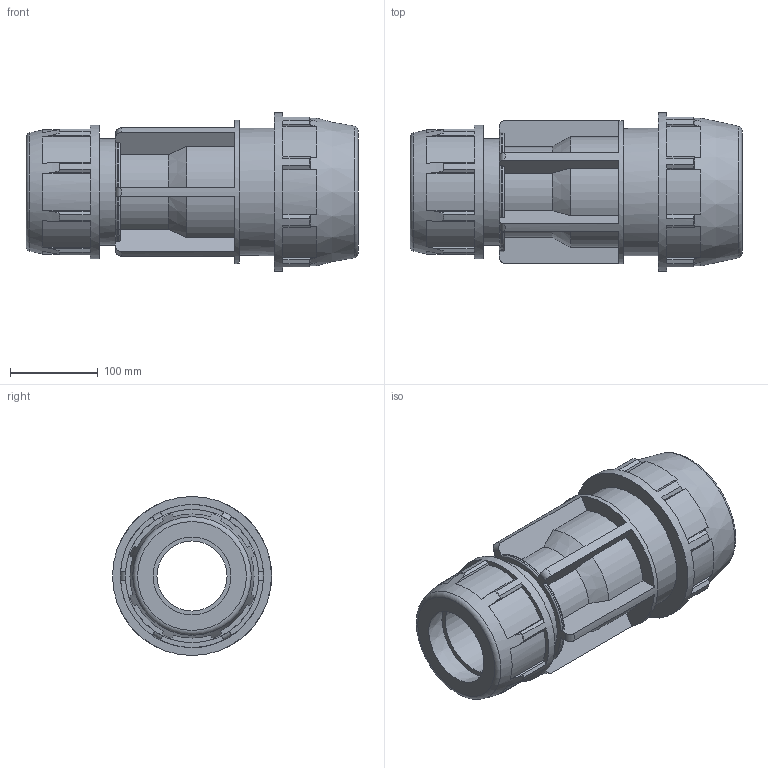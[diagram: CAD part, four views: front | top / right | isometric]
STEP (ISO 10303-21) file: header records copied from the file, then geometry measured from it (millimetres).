
FILE_DESCRIPTION(/* description */ ('PLASSON REDUCING COUPLER 4'''' - 3'''''),/* implementation_level */ '2;1');
FILE_NAME(/* name */ 'C:\Dropbox\KIMPROJECTS-Inventor 2019\99-16-3568-Processing Inch\ASTM Compression 2021\0711M0\0711M0 4-3 custom.ipt.stp',/* time_stamp */ '2021-08-26T12:32:25+03:00',/* author */ ('KIM'),/* organization */ (''),/* preprocessor_version */ 'ST-DEVELOPER v17.2',/* originating_system */ 'Autodesk Inventor 2019',/* authorisation */ '');
FILE_SCHEMA (('AUTOMOTIVE_DESIGN { 1 0 10303 214 3 1 1 }'));
Length unit declared in the file: inch
Products named in the file (1): 0711M0 4-3 custom
Bounding box: 378 x 181.1 x 181.1 mm (x, y, z)
Volume: 2847448.3 mm3; surface area: 398785.5 mm2
Topology: 1 solids, 1 shells, 232 faces, 692 edges, 469 vertices
Faces by surface type: plane 143, cylinder 47, cone 28, torus 14
Full cylindrical faces by diameter (mm): 88.7 x1, 114.1 x1, 121.514 x1, 144.882 x1, 151.892 x1, 162.992 x1, 181.102 x1
Entity records: 8268 total; most frequent: CARTESIAN_POINT 1804, ORIENTED_EDGE 1384, DIRECTION 1255, EDGE_CURVE 692, VERTEX_POINT 469, AXIS2_PLACEMENT_3D 445, LINE 365, VECTOR 365
